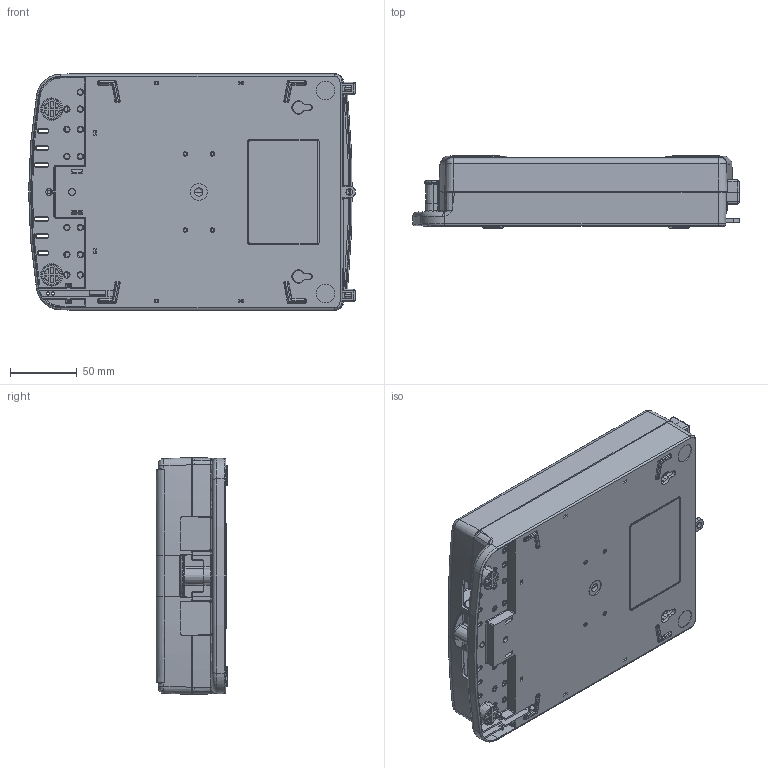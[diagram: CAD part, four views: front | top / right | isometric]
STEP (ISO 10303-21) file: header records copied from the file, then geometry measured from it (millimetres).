
FILE_DESCRIPTION((''),'2;1');
FILE_NAME('CU_ASSY_ENC_MINOTAUR__SW0003','2007-09-28T',('jiberry'),(''),'PRO/ENGINEER BY PARAMETRIC TECHNOLOGY CORPORATION, 2006080','PRO/ENGINEER BY PARAMETRIC TECHNOLOGY CORPORATION, 2006080','');
FILE_SCHEMA(('CONFIG_CONTROL_DESIGN'));
Products named in the file (1): CU_ASSY_ENC_MINOTAUR__SW0003
Bounding box: 245.34 x 53.85 x 177.78 mm (x, y, z)
Volume: 310084.8 mm3; surface area: 262627 mm2
Topology: 1 solids, 1 shells, 2670 faces, 6241 edges, 3833 vertices
Faces by surface type: cylinder 1042, plane 907, torus 287, cone 167, bspline 163, sphere 102, extrusion 2
Entity records: 85297 total; most frequent: CARTESIAN_POINT 24155, DIRECTION 13101, ORIENTED_EDGE 12466, EDGE_CURVE 6233, AXIS2_PLACEMENT_3D 5115, VERTEX_POINT 3833, EDGE_LOOP 3028, VECTOR 2871
